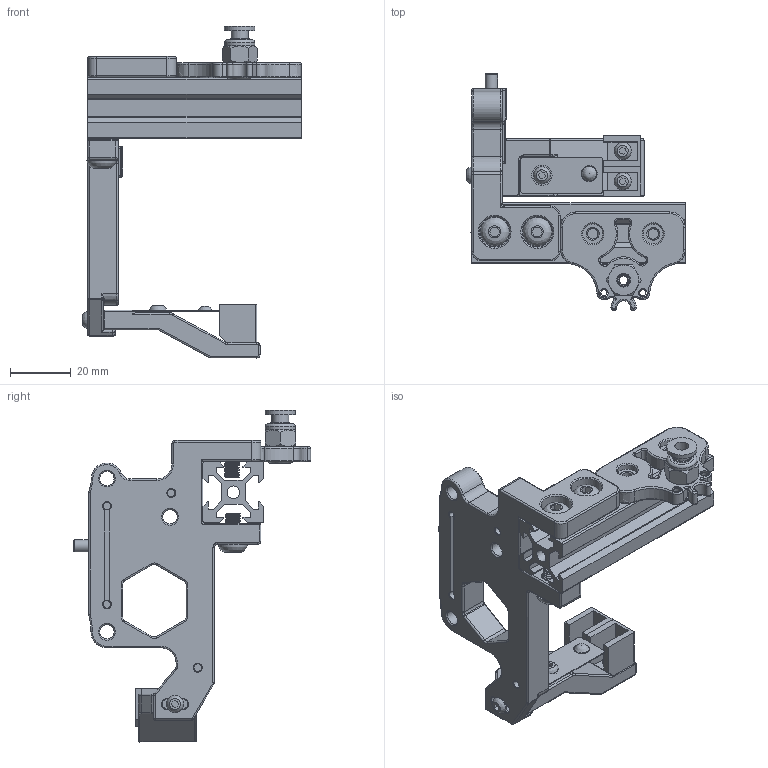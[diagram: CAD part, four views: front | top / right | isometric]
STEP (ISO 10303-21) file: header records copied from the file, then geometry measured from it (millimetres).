
FILE_DESCRIPTION(/* description */ (''),/* implementation_level */ '2;1');
FILE_NAME(/* name */ 'Dock v24.step',/* time_stamp */ '2024-09-18T13:50:30+07:00',/* author */ (''),/* organization */ (''),/* preprocessor_version */ 'ST-DEVELOPER v20',/* originating_system */ 'Autodesk Translation Framework v13.14.0.145',/* authorisation */ '');
FILE_SCHEMA (('AUTOMOTIVE_DESIGN { 1 0 10303 214 3 1 1 }'));
Products named in the file (30): Dock; Hardware (1); 8 x 5mm magnet; m4 x 15mm dowel pin; 8 x 5mm magnet (1); 8 x 5mm magnet (2); m5 x 10mm bhcs; m5 x 8mm bhcs; m3 x 6mm bhcs; m3 hex nut (3); m3 hex nut; m3 washer; m3 x 10mm bhcs; m3 brass insert; AA battery terminal; m5 x 8mm bhcs (1); m3 x 6mm bhcs (1); 8 x 5mm magnet (3); spring OD6 ID5 15mm; m3 hex nut (1); m3 x 6mm bhcs (2); Nozzle Blocker Mount; Dock Body (2); PC4-M10 pneumatic coupling v1; 2020 Extrusion; Umbilical Extrusion Mount; Silicone Brush; Pin Stopper; Silicone Brush (1); Spring Cover (1)
Assembly tree (29 placements, depth 3):
  Dock
    Hardware (1)
      8 x 5mm magnet
      m4 x 15mm dowel pin
      8 x 5mm magnet (1)
      8 x 5mm magnet (2)
      m5 x 10mm bhcs
      m5 x 8mm bhcs
      m3 x 6mm bhcs
      m3 hex nut (3)
      m3 hex nut
      m3 washer
      m3 x 10mm bhcs
      m3 brass insert
      AA battery terminal
      m5 x 8mm bhcs (1)
      m3 x 6mm bhcs (1)
      8 x 5mm magnet (3)
      spring OD6 ID5 15mm
      m3 hex nut (1)
      m3 x 6mm bhcs (2)
    Nozzle Blocker Mount
    Dock Body (2)
    PC4-M10 pneumatic coupling v1
    2020 Extrusion
    Umbilical Extrusion Mount
    Silicone Brush
    Pin Stopper
    Silicone Brush (1)
    Spring Cover (1)
Bounding box: 71.65 x 77.83 x 108.89 mm (x, y, z)
Volume: 49031.4 mm3; surface area: 38091.9 mm2
Topology: 30 solids, 30 shells, 1537 faces, 3920 edges, 2466 vertices
Faces by surface type: cylinder 626, plane 371, bspline 213, cone 163, torus 150, sphere 14
Full cylindrical faces by diameter (mm): 2 x2, 2.356 x56, 2.376 x10, 2.5 x19, 2.927 x52, 3 x4, 3.4 x6, 3.505 x1, 3.564 x1, 3.99 x10, 4 x1, 4.1 x1, 4.2 x1, 4.3 x1, 4.5 x3, 4.7 x4, 4.751 x1, 4.9 x1, 4.901 x19, 5.5 x6, 5.7 x4, 6.3 x2, 6.5 x2, 6.7 x1, 8 x4, 8.2 x3, 8.917 x4, 9.036 x3, 9.947 x1, 10 x6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
Entity records: 92697 total; most frequent: CARTESIAN_POINT 56363, ORIENTED_EDGE 7820, DIRECTION 7032, EDGE_CURVE 3910, AXIS2_PLACEMENT_3D 2785, VERTEX_POINT 2466, EDGE_LOOP 1642, FACE_OUTER_BOUND 1537
